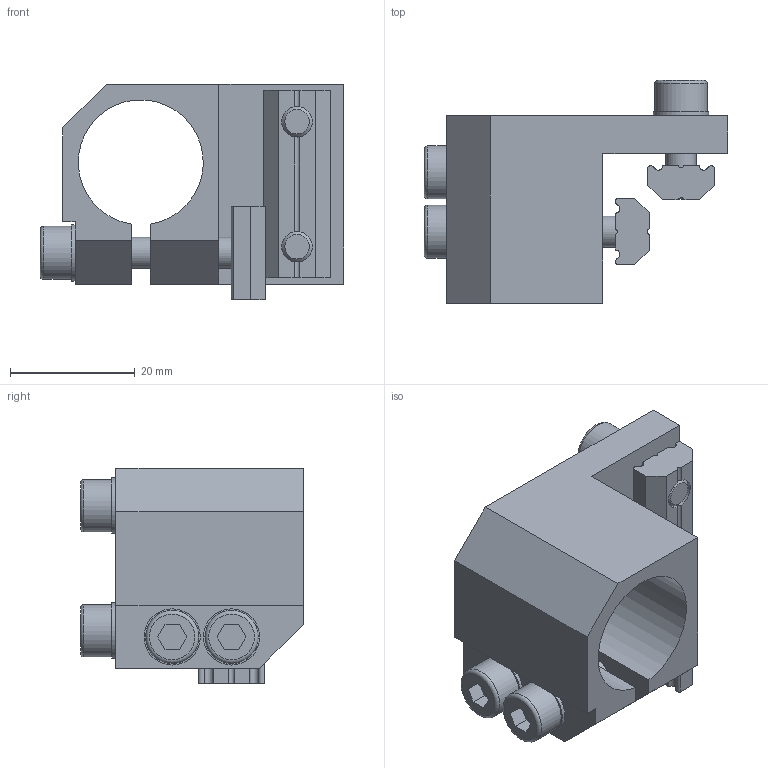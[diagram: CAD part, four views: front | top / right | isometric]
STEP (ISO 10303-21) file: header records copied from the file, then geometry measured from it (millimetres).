
FILE_DESCRIPTION (( 'STEP AP214' ), '1' );
FILE_NAME ('3351.STEP', '2024-06-13T17:56:56', ( '' ), ( '' ), 'SwSTEP 2.0', 'SolidWorks 2022', '' );
FILE_SCHEMA (( 'AUTOMOTIVE_DESIGN' ));
Length unit declared in the file: millimetre
Products named in the file (1): 3351
Bounding box: 48.61 x 35.66 x 34.5 mm (x, y, z)
Volume: 19189.9 mm3; surface area: 12768.3 mm2
Topology: 11 solids, 11 shells, 136 faces, 327 edges, 215 vertices
Faces by surface type: plane 84, cylinder 44, torus 4, cone 4
Full cylindrical faces by diameter (mm): 4.2 x2, 4.9 x4, 5 x2, 5.3 x5, 5.5 x4, 8.4 x2, 8.5 x2, 8.9 x2, 9 x2
Entity records: 4219 total; most frequent: CARTESIAN_POINT 744, DIRECTION 641, ORIENTED_EDGE 578, EDGE_CURVE 289, AXIS2_PLACEMENT_3D 227, VERTEX_POINT 210, EDGE_LOOP 197, VECTOR 187
